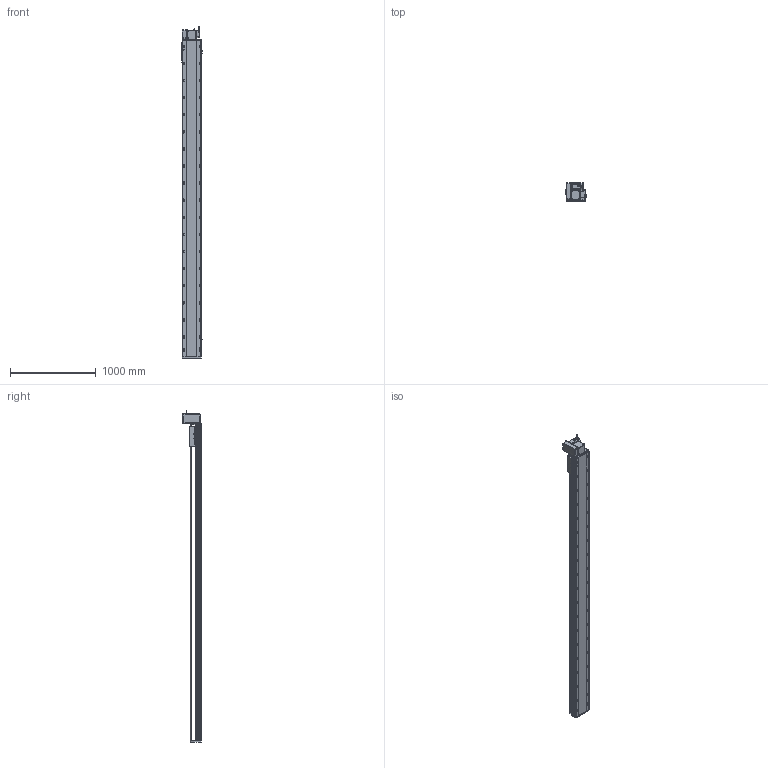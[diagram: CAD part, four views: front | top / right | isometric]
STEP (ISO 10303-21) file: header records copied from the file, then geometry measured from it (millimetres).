
FILE_DESCRIPTION (( 'STEP AP214' ), '1' );
FILE_NAME ('RTB22S-XX-3350-LW-M75-C4.STEP', '2025-12-12T07:07:36', ( '' ), ( '' ), 'SwSTEP 2.0', 'SolidWorks 2018', '' );
FILE_SCHEMA (( 'AUTOMOTIVE_DESIGN' ));
Length unit declared in the file: millimetre
Products named in the file (14): RTB22S-L-011菁釱^RTB22S-XX-XX-LW-M75-C4; RTB22S-GY-014--々湍釱^RTB22S-LW-々湍釱蚾饜_RTB22S-XX-XX-LW-M75-C4; RTB22S-L-004賑釱^RTB22S-XX-XX-LW-M75-C4; 750W萇儂^RTB22S-XX-XX-LW-M75-C4; RTB22S-XX-3350-LW-M75-C4; RTB22S-GY-018P^RTB22S-LW-々湍釱蚾饜_RTB22S-XX-XX-LW-M75-C4; RTB22S-GY-008-M75--萇儂啣^RTB22S-LW-々湍釱蚾饜_RTB22S-XX-XX-LW-M75-C4; RTB22S-LW-々湍釱蚾饜^RTB22S-XX-XX-LW-M75-C4; RTB22S-GY-007奻裔^RTB22S-XX-XX-LW-M75-C4; RTH22-GY-013外置感应片^RTB22S-XX-XX-LW-M75-C4; OMRON EE-SX672 传感器^RTB22S-XX-XX-LW-M75-C4; RTB22S-GY-005P^RTB22S-LW-々湍釱蚾饜_RTB22S-XX-XX-LW-M75-C4; RTB22S-GY-001耜裔^RTB22S-XX-XX-LW-M75-C4; RTB22S-GY-017P^RTB22S-LW-々湍釱蚾饜_RTB22S-XX-XX-LW-M75-C4
Assembly tree (16 placements, depth 3):
  RTB22S-XX-3350-LW-M75-C4
    RTB22S-L-011菁釱^RTB22S-XX-XX-LW-M75-C4
    RTB22S-GY-001耜裔^RTB22S-XX-XX-LW-M75-C4
    750W萇儂^RTB22S-XX-XX-LW-M75-C4
    RTB22S-GY-007奻裔^RTB22S-XX-XX-LW-M75-C4
    RTB22S-L-004賑釱^RTB22S-XX-XX-LW-M75-C4
    RTH22-GY-013外置感应片^RTB22S-XX-XX-LW-M75-C4
    OMRON EE-SX672 传感器^RTB22S-XX-XX-LW-M75-C4  x3
    RTB22S-LW-々湍釱蚾饜^RTB22S-XX-XX-LW-M75-C4
      RTB22S-GY-014--々湍釱^RTB22S-LW-々湍釱蚾饜_RTB22S-XX-XX-LW-M75-C4
      RTB22S-GY-017P^RTB22S-LW-々湍釱蚾饜_RTB22S-XX-XX-LW-M75-C4  x2
      RTB22S-GY-005P^RTB22S-LW-々湍釱蚾饜_RTB22S-XX-XX-LW-M75-C4
      RTB22S-GY-008-M75--萇儂啣^RTB22S-LW-々湍釱蚾饜_RTB22S-XX-XX-LW-M75-C4
      RTB22S-GY-018P^RTB22S-LW-々湍釱蚾饜_RTB22S-XX-XX-LW-M75-C4
Bounding box: 238.5 x 215.5 x 3882.2 mm (x, y, z)
Volume: 48667607.7 mm3; surface area: 4953778.7 mm2
Topology: 15 solids, 15 shells, 2181 faces, 5936 edges, 3782 vertices
Faces by surface type: plane 937, cylinder 754, bspline 296, cone 182, sphere 8, torus 4
Entity records: 60006 total; most frequent: CARTESIAN_POINT 16800, ORIENTED_EDGE 8572, DIRECTION 8440, EDGE_CURVE 4286, AXIS2_PLACEMENT_3D 3050, VERTEX_POINT 2786, VECTOR 2340, LINE 2340
